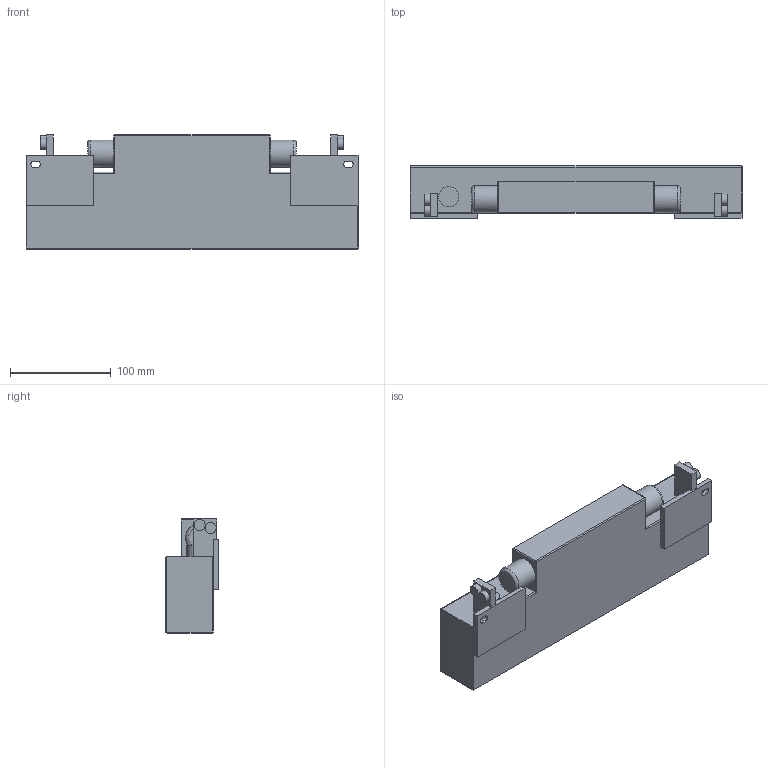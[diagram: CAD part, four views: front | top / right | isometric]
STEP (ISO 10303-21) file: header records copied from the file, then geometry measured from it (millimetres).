
FILE_DESCRIPTION(/* description */ ('Unknown'),/* implementation_level */ '2;1');
FILE_NAME(/* name */ 'EMINERE Remote 1 MC',/* time_stamp */ '2024-06-19T09:51:33+02:00',/* author */ ('Unknown'),/* organization */ ('Unknown'),/* preprocessor_version */ 'ST-DEVELOPER v19.4',/* originating_system */ 'Solid Edge',/* authorisation */ 'Unknown');
FILE_SCHEMA (('AUTOMOTIVE_DESIGN {1 0 10303 214 3 1 1}'));
Length unit declared in the file: millimetre
Products named in the file (1): EMINERE Remote 1 MC
Bounding box: 329 x 52.4 x 113 mm (x, y, z)
Volume: 1447472.3 mm3; surface area: 118050 mm2
Topology: 1 solids, 1 shells, 88 faces, 221 edges, 134 vertices
Faces by surface type: plane 47, cylinder 29, torus 10, sphere 2
Full cylindrical faces by diameter (mm): 11 x4, 20 x1, 27 x2
Entity records: 2548 total; most frequent: DIRECTION 452, CARTESIAN_POINT 425, ORIENTED_EDGE 412, EDGE_CURVE 206, AXIS2_PLACEMENT_3D 157, LINE 138, VECTOR 138, VERTEX_POINT 130
